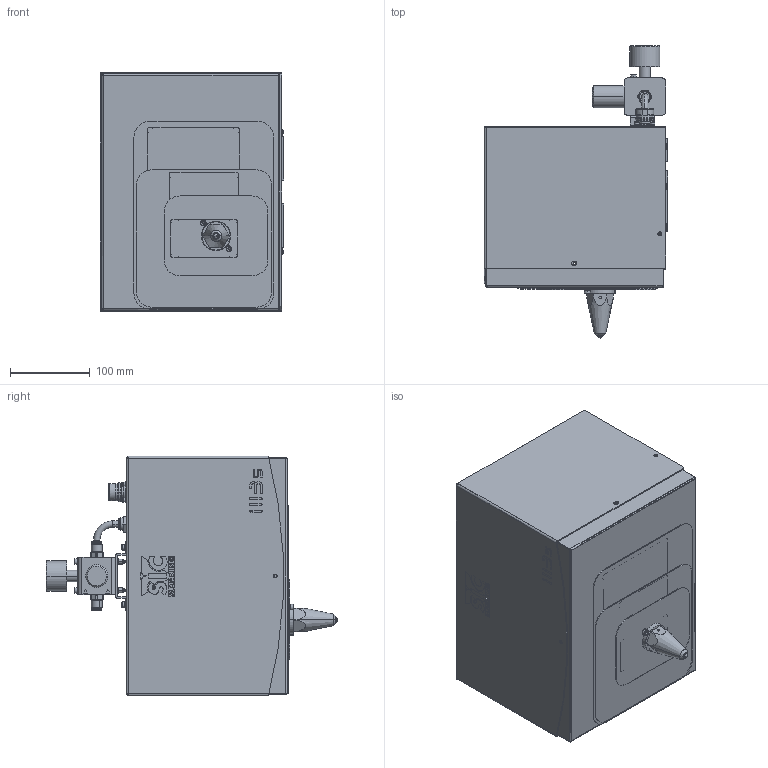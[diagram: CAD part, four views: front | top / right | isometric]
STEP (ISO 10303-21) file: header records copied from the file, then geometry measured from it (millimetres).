
FILE_DESCRIPTION (( 'STEP AP203' ), '1' );
FILE_NAME ('4 200 022.STEP', '2009-11-27T09:22:55', ( ' ' ), ( ' ' ), 'SwSTEP 2.0', 'SolidWorks 2008', '' );
FILE_SCHEMA (( 'CONFIG_CONTROL_DESIGN' ));
Products named in the file (1): 4 200 022
Bounding box: 230.2 x 365.5 x 300 mm (x, y, z)
Volume: 1190399.3 mm3; surface area: 992453 mm2
Topology: 53 solids, 54 shells, 1981 faces, 4701 edges, 2925 vertices
Faces by surface type: plane 878, cylinder 714, cone 166, torus 142, sphere 54, bspline 27
Entity records: 60827 total; most frequent: CARTESIAN_POINT 14202, DIRECTION 10224, ORIENTED_EDGE 9224, EDGE_CURVE 4612, AXIS2_PLACEMENT_3D 3867, VERTEX_POINT 2887, LINE 2490, VECTOR 2490
